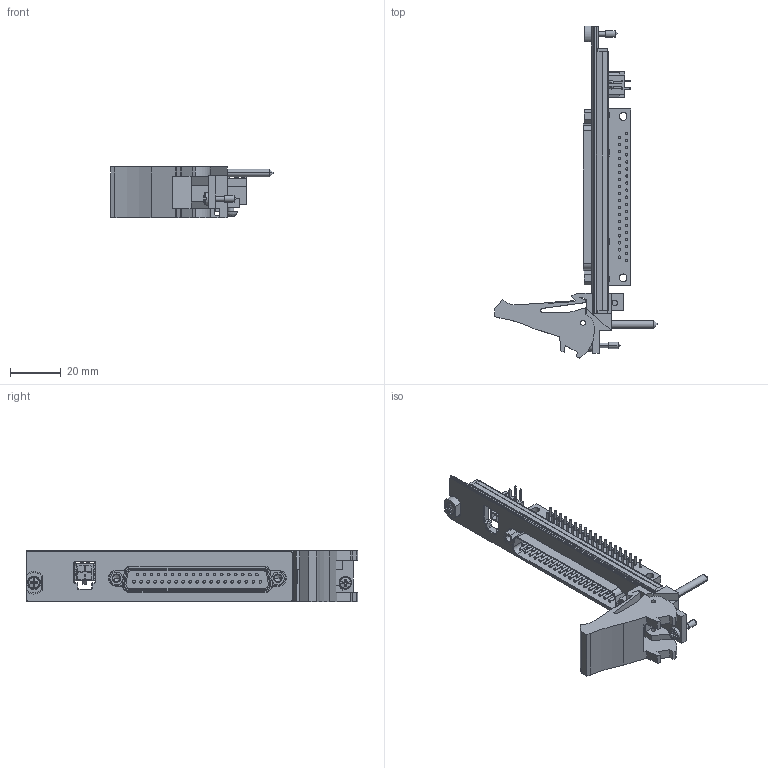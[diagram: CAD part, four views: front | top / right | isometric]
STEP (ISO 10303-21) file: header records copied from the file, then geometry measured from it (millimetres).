
FILE_DESCRIPTION((''),'2;1');
FILE_NAME('CU_PXI-272X','2012-08-13T',('hugyokog'),(''),'PRO/ENGINEER BY PARAMETRIC TECHNOLOGY CORPORATION, 2010230','PRO/ENGINEER BY PARAMETRIC TECHNOLOGY CORPORATION, 2010230','');
FILE_SCHEMA(('CONFIG_CONTROL_DESIGN'));
Length unit declared in the file: inch
Products named in the file (1): CU_PXI-272X
Bounding box: 63.73 x 130.5 x 20.3 mm (x, y, z)
Volume: 22336.3 mm3; surface area: 23681 mm2
Topology: 4 solids, 4 shells, 1130 faces, 2781 edges, 1793 vertices
Faces by surface type: plane 710, cylinder 370, cone 28, sphere 8, bspline 8, torus 6
Entity records: 33730 total; most frequent: CARTESIAN_POINT 6252, DIRECTION 5818, ORIENTED_EDGE 5534, EDGE_CURVE 2767, AXIS2_PLACEMENT_3D 1960, VECTOR 1898, LINE 1898, VERTEX_POINT 1812
